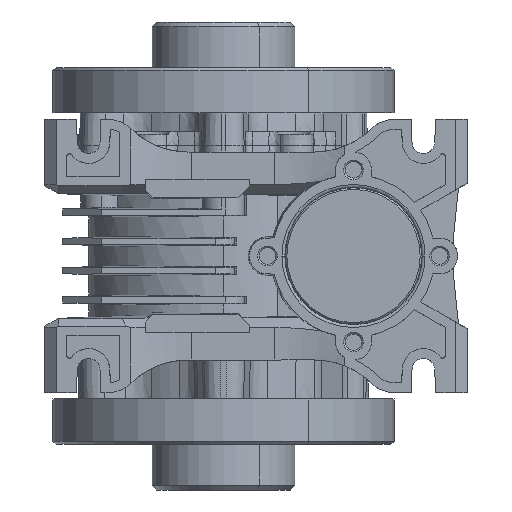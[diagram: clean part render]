
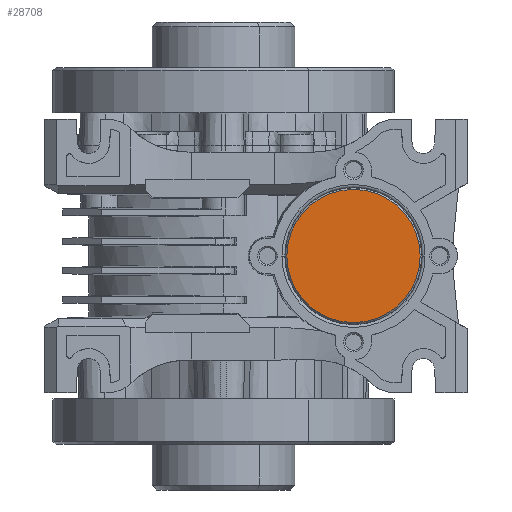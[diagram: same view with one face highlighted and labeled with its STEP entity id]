
A CAD part, left-side view. The second image highlights one B-rep face of the part: STEP entity #28708.
In plain terms, the highlighted planar face has unit normal (-1, 0, 0).
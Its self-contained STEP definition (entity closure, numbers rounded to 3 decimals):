
#83 = EDGE_CURVE ( 'NONE', #36536, #5142, #62706, .T. ) ;
#5142 = VERTEX_POINT ( 'NONE', #32827 ) ;
#9646 = EDGE_LOOP ( 'NONE', ( #44893, #56089 ) ) ;
#11386 = AXIS2_PLACEMENT_3D ( 'NONE', #35614, #19927, #65713 ) ;
#13929 = AXIS2_PLACEMENT_3D ( 'NONE', #33181, #51484, #28211 ) ;
#19927 = DIRECTION ( 'NONE',  ( 1., 0., 0. ) ) ;
#26589 = CARTESIAN_POINT ( 'NONE',  ( -55., -40., 0. ) ) ;
#28211 = DIRECTION ( 'NONE',  ( 0., 0., -1. ) ) ;
#28708 = ADVANCED_FACE ( 'NONE', ( #42814 ), #48921, .F. ) ;
#32827 = CARTESIAN_POINT ( 'NONE',  ( -55., -40., 20.5 ) ) ;
#33181 = CARTESIAN_POINT ( 'NONE',  ( -55., -40., 0. ) ) ;
#35614 = CARTESIAN_POINT ( 'NONE',  ( -55., -40., 0. ) ) ;
#36536 = VERTEX_POINT ( 'NONE', #71256 ) ;
#41469 = EDGE_CURVE ( 'NONE', #5142, #36536, #75128, .T. ) ;
#42814 = FACE_OUTER_BOUND ( 'NONE', #9646, .T. ) ;
#44893 = ORIENTED_EDGE ( 'NONE', *, *, #83, .T. ) ;
#48921 = PLANE ( 'NONE',  #11386 ) ;
#51484 = DIRECTION ( 'NONE',  ( -1., 0., 0. ) ) ;
#56089 = ORIENTED_EDGE ( 'NONE', *, *, #41469, .T. ) ;
#61681 = DIRECTION ( 'NONE',  ( 0., 0., -1. ) ) ;
#62706 = CIRCLE ( 'NONE', #13929, 20.5 ) ;
#62996 = AXIS2_PLACEMENT_3D ( 'NONE', #26589, #73127, #61681 ) ;
#65713 = DIRECTION ( 'NONE',  ( 0., 0., -1. ) ) ;
#71256 = CARTESIAN_POINT ( 'NONE',  ( -55., -40., -20.5 ) ) ;
#73127 = DIRECTION ( 'NONE',  ( -1., 0., 0. ) ) ;
#75128 = CIRCLE ( 'NONE', #62996, 20.5 ) ;
